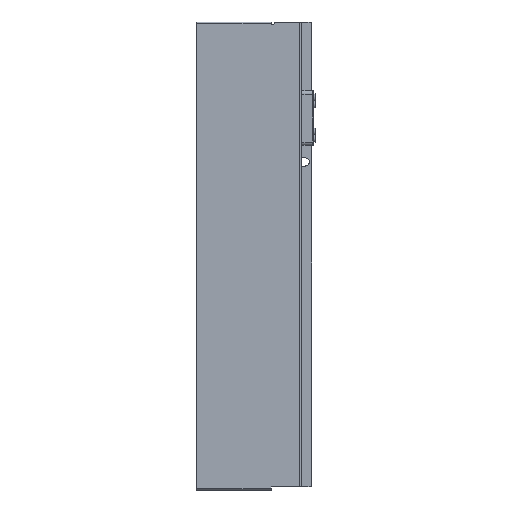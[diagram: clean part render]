
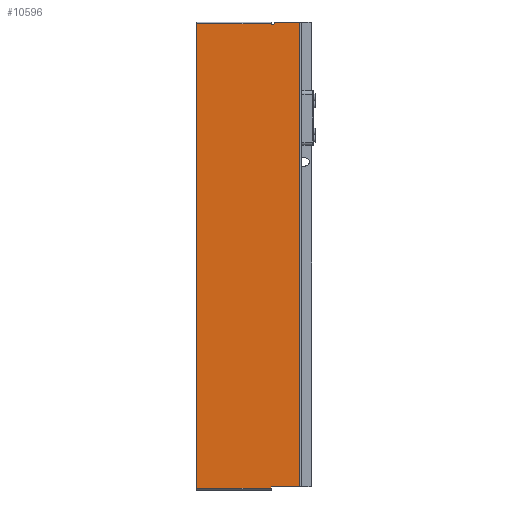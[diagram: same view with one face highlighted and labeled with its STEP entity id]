
A CAD part, left-side view. The second image highlights one B-rep face of the part: STEP entity #10596.
In plain terms, the highlighted planar face has unit normal (-1, 0, 0).
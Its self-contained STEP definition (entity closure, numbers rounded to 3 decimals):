
#109 = AXIS2_PLACEMENT_3D ( 'NONE', #13065, #5791, #14273 ) ;
#136 = DIRECTION ( 'NONE',  ( 1., 0., 0. ) ) ;
#140 = ORIENTED_EDGE ( 'NONE', *, *, #7411, .T. ) ;
#231 = DIRECTION ( 'NONE',  ( 0., 1., 0. ) ) ;
#377 = CARTESIAN_POINT ( 'NONE',  ( -1.2, 75., 170. ) ) ;
#442 = VECTOR ( 'NONE', #6712, 1000. ) ;
#620 = LINE ( 'NONE', #3826, #8150 ) ;
#644 = DIRECTION ( 'NONE',  ( 0., 1., 0. ) ) ;
#1792 = CARTESIAN_POINT ( 'NONE',  ( -1.2, 0., 168.5 ) ) ;
#1983 = VERTEX_POINT ( 'NONE', #14473 ) ;
#2000 = ORIENTED_EDGE ( 'NONE', *, *, #14400, .T. ) ;
#2136 = CIRCLE ( 'NONE', #10777, 0.2 ) ;
#2220 = VECTOR ( 'NONE', #7750, 1000. ) ;
#2509 = LINE ( 'NONE', #2587, #9296 ) ;
#2587 = CARTESIAN_POINT ( 'NONE',  ( -1.2, 0., 170. ) ) ;
#3024 = VERTEX_POINT ( 'NONE', #9611 ) ;
#3105 = CARTESIAN_POINT ( 'NONE',  ( -1.2, 18.5, 170. ) ) ;
#3118 = VECTOR ( 'NONE', #644, 1000. ) ;
#3308 = EDGE_CURVE ( 'NONE', #6432, #10919, #12765, .T. ) ;
#3484 = VECTOR ( 'NONE', #8539, 1000. ) ;
#3608 = CARTESIAN_POINT ( 'NONE',  ( -1.2, 20.5, 168.7 ) ) ;
#3672 = ORIENTED_EDGE ( 'NONE', *, *, #11054, .T. ) ;
#3703 = CARTESIAN_POINT ( 'NONE',  ( -1.2, 0., -169. ) ) ;
#3791 = CARTESIAN_POINT ( 'NONE',  ( -1.2, 0., -170. ) ) ;
#3826 = CARTESIAN_POINT ( 'NONE',  ( -1.2, -1.2, -169. ) ) ;
#3863 = VERTEX_POINT ( 'NONE', #3703 ) ;
#4044 = CARTESIAN_POINT ( 'NONE',  ( -1.2, 20.5, 168.8 ) ) ;
#4100 = CARTESIAN_POINT ( 'NONE',  ( -1.2, 20.5, 170. ) ) ;
#4168 = EDGE_CURVE ( 'NONE', #11908, #3024, #9525, .T. ) ;
#4271 = LINE ( 'NONE', #15169, #10339 ) ;
#4361 = VECTOR ( 'NONE', #11410, 1000. ) ;
#4594 = ORIENTED_EDGE ( 'NONE', *, *, #6620, .F. ) ;
#4776 = CARTESIAN_POINT ( 'NONE',  ( -1.2, 18.3, 169.8 ) ) ;
#5038 = CARTESIAN_POINT ( 'NONE',  ( -1.2, 18.3, 170. ) ) ;
#5368 = ORIENTED_EDGE ( 'NONE', *, *, #6531, .T. ) ;
#5698 = EDGE_CURVE ( 'NONE', #3024, #8163, #2136, .T. ) ;
#5749 = DIRECTION ( 'NONE',  ( 0., 0., -1. ) ) ;
#5791 = DIRECTION ( 'NONE',  ( 1., 0., 0. ) ) ;
#5984 = DIRECTION ( 'NONE',  ( 0., 0., -1. ) ) ;
#6047 = VERTEX_POINT ( 'NONE', #12947 ) ;
#6325 = ORIENTED_EDGE ( 'NONE', *, *, #14881, .F. ) ;
#6432 = VERTEX_POINT ( 'NONE', #11675 ) ;
#6531 = EDGE_CURVE ( 'NONE', #6684, #11265, #13304, .T. ) ;
#6620 = EDGE_CURVE ( 'NONE', #6684, #14080, #2509, .T. ) ;
#6684 = VERTEX_POINT ( 'NONE', #5038 ) ;
#6712 = DIRECTION ( 'NONE',  ( 0., 0., -1. ) ) ;
#6745 = EDGE_CURVE ( 'NONE', #7705, #6047, #14236, .T. ) ;
#7005 = AXIS2_PLACEMENT_3D ( 'NONE', #4776, #13269, #5984 ) ;
#7302 = CARTESIAN_POINT ( 'NONE',  ( -1.2, 20.3, 168.7 ) ) ;
#7330 = CIRCLE ( 'NONE', #109, 0.2 ) ;
#7392 = CARTESIAN_POINT ( 'NONE',  ( -1.2, 18.5, 169.8 ) ) ;
#7411 = EDGE_CURVE ( 'NONE', #6047, #6432, #12700, .T. ) ;
#7441 = ORIENTED_EDGE ( 'NONE', *, *, #10009, .T. ) ;
#7574 = LINE ( 'NONE', #4100, #4361 ) ;
#7705 = VERTEX_POINT ( 'NONE', #15446 ) ;
#7750 = DIRECTION ( 'NONE',  ( 0., 0., 1. ) ) ;
#7772 = FACE_OUTER_BOUND ( 'NONE', #12623, .T. ) ;
#7884 = DIRECTION ( 'NONE',  ( 0., 1., 0. ) ) ;
#8132 = PLANE ( 'NONE',  #9302 ) ;
#8150 = VECTOR ( 'NONE', #231, 1000. ) ;
#8163 = VERTEX_POINT ( 'NONE', #3608 ) ;
#8535 = EDGE_CURVE ( 'NONE', #1983, #11908, #7330, .T. ) ;
#8539 = DIRECTION ( 'NONE',  ( 0., 0., 1. ) ) ;
#8557 = DIRECTION ( 'NONE',  ( 0., 0., -1. ) ) ;
#9296 = VECTOR ( 'NONE', #11023, 1000. ) ;
#9302 = AXIS2_PLACEMENT_3D ( 'NONE', #14190, #13020, #5749 ) ;
#9525 = LINE ( 'NONE', #1792, #3118 ) ;
#9611 = CARTESIAN_POINT ( 'NONE',  ( -1.2, 20.3, 168.5 ) ) ;
#9661 = LINE ( 'NONE', #3105, #442 ) ;
#9922 = ORIENTED_EDGE ( 'NONE', *, *, #10906, .T. ) ;
#10009 = EDGE_CURVE ( 'NONE', #10861, #7705, #4271, .T. ) ;
#10193 = CARTESIAN_POINT ( 'NONE',  ( -1.2, 0., 170. ) ) ;
#10339 = VECTOR ( 'NONE', #7884, 1000. ) ;
#10596 = ADVANCED_FACE ( 'NONE', ( #7772 ), #8132, .F. ) ;
#10717 = CARTESIAN_POINT ( 'NONE',  ( -1.2, 0., 170. ) ) ;
#10777 = AXIS2_PLACEMENT_3D ( 'NONE', #7302, #136, #8557 ) ;
#10861 = VERTEX_POINT ( 'NONE', #4044 ) ;
#10869 = ORIENTED_EDGE ( 'NONE', *, *, #3308, .T. ) ;
#10906 = EDGE_CURVE ( 'NONE', #8163, #10861, #7574, .T. ) ;
#10919 = VERTEX_POINT ( 'NONE', #15025 ) ;
#11023 = DIRECTION ( 'NONE',  ( 0., -1., 0. ) ) ;
#11054 = EDGE_CURVE ( 'NONE', #11265, #1983, #9661, .T. ) ;
#11265 = VERTEX_POINT ( 'NONE', #7392 ) ;
#11390 = VECTOR ( 'NONE', #12400, 1000. ) ;
#11410 = DIRECTION ( 'NONE',  ( 0., 0., 1. ) ) ;
#11451 = ORIENTED_EDGE ( 'NONE', *, *, #6745, .T. ) ;
#11487 = LINE ( 'NONE', #10193, #2220 ) ;
#11586 = CARTESIAN_POINT ( 'NONE',  ( -1.2, 18.7, 168.5 ) ) ;
#11675 = CARTESIAN_POINT ( 'NONE',  ( -1.2, 20.5, -170. ) ) ;
#11908 = VERTEX_POINT ( 'NONE', #11586 ) ;
#12322 = VECTOR ( 'NONE', #13491, 1000. ) ;
#12400 = DIRECTION ( 'NONE',  ( 0., 0., -1. ) ) ;
#12623 = EDGE_LOOP ( 'NONE', ( #4594, #5368, #3672, #13725, #14476, #15243, #9922, #7441, #11451, #140, #10869, #6325, #2000 ) ) ;
#12700 = LINE ( 'NONE', #3791, #12322 ) ;
#12765 = LINE ( 'NONE', #14581, #3484 ) ;
#12947 = CARTESIAN_POINT ( 'NONE',  ( -1.2, 75., -170. ) ) ;
#13020 = DIRECTION ( 'NONE',  ( 1., 0., 0. ) ) ;
#13065 = CARTESIAN_POINT ( 'NONE',  ( -1.2, 18.7, 168.7 ) ) ;
#13269 = DIRECTION ( 'NONE',  ( -1., 0., 0. ) ) ;
#13304 = CIRCLE ( 'NONE', #7005, 0.2 ) ;
#13491 = DIRECTION ( 'NONE',  ( 0., -1., 0. ) ) ;
#13725 = ORIENTED_EDGE ( 'NONE', *, *, #8535, .T. ) ;
#14080 = VERTEX_POINT ( 'NONE', #10717 ) ;
#14190 = CARTESIAN_POINT ( 'NONE',  ( -1.2, 0., 170. ) ) ;
#14236 = LINE ( 'NONE', #377, #11390 ) ;
#14273 = DIRECTION ( 'NONE',  ( 0., 0., -1. ) ) ;
#14400 = EDGE_CURVE ( 'NONE', #3863, #14080, #11487, .T. ) ;
#14473 = CARTESIAN_POINT ( 'NONE',  ( -1.2, 18.5, 168.7 ) ) ;
#14476 = ORIENTED_EDGE ( 'NONE', *, *, #4168, .T. ) ;
#14581 = CARTESIAN_POINT ( 'NONE',  ( -1.2, 20.5, -171.2 ) ) ;
#14881 = EDGE_CURVE ( 'NONE', #3863, #10919, #620, .T. ) ;
#15025 = CARTESIAN_POINT ( 'NONE',  ( -1.2, 20.5, -169. ) ) ;
#15169 = CARTESIAN_POINT ( 'NONE',  ( -1.2, 0., 168.8 ) ) ;
#15243 = ORIENTED_EDGE ( 'NONE', *, *, #5698, .T. ) ;
#15446 = CARTESIAN_POINT ( 'NONE',  ( -1.2, 75., 168.8 ) ) ;
